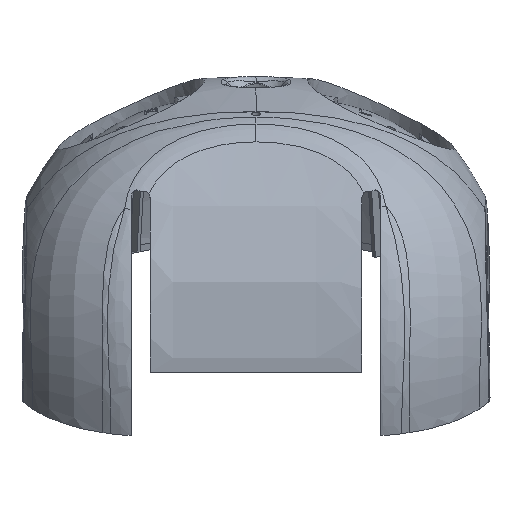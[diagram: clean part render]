
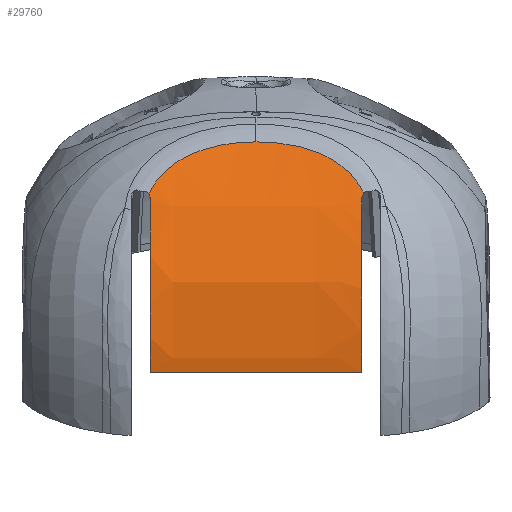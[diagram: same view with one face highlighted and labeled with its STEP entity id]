
A CAD part, front view. The second image highlights one B-rep face of the part: STEP entity #29760.
In plain terms, the highlighted face is a extrusion surface.
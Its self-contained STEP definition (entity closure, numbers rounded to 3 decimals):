
#5467=CARTESIAN_POINT('',(-19.5,-33.513,27.868));
#5468=CARTESIAN_POINT('',(-19.5,-33.712,27.404));
#5469=CARTESIAN_POINT('',(-19.5,-34.865,24.649));
#5470=CARTESIAN_POINT('',(-19.5,-36.629,19.58));
#5471=CARTESIAN_POINT('',(-19.5,-38.18,12.623));
#5472=CARTESIAN_POINT('',(-19.5,-38.807,5.608));
#5473=CARTESIAN_POINT('',(-19.5,-38.505,0.033));
#5474=CARTESIAN_POINT('',(-19.5,-37.989,-3.204));
#5475=CARTESIAN_POINT('',(-19.5,-37.827,-4.067));
#7655=CARTESIAN_POINT('',(19.5,-37.827,-4.067));
#7656=CARTESIAN_POINT('',(19.5,-37.989,-3.204));
#7657=CARTESIAN_POINT('',(19.5,-38.505,0.033));
#7658=CARTESIAN_POINT('',(19.5,-38.807,5.608));
#7659=CARTESIAN_POINT('',(19.5,-38.18,12.623));
#7660=CARTESIAN_POINT('',(19.5,-36.629,19.58));
#7661=CARTESIAN_POINT('',(19.5,-34.865,24.649));
#7662=CARTESIAN_POINT('',(19.5,-33.712,27.404));
#7663=CARTESIAN_POINT('',(19.5,-33.513,27.868));
#11857=CARTESIAN_POINT('',(-19.5,-33.513,27.868));
#11858=CARTESIAN_POINT('',(-19.5,-33.46,27.991));
#11859=CARTESIAN_POINT('',(-19.524,-33.358,
28.227));
#11860=CARTESIAN_POINT('',(-19.614,-33.222,
28.536));
#11861=CARTESIAN_POINT('',(-19.703,-33.144,
28.711));
#11862=CARTESIAN_POINT('',(-19.753,-33.11,
28.789));
#11867=CARTESIAN_POINT('',(-19.753,-33.11,
28.789));
#11868=CARTESIAN_POINT('',(-19.727,-33.085,
28.844));
#11869=CARTESIAN_POINT('',(-19.675,-33.037,
28.951));
#11870=CARTESIAN_POINT('',(-19.598,-32.965,
29.112));
#11871=CARTESIAN_POINT('',(-19.539,-32.922,
29.208));
#11872=CARTESIAN_POINT('',(-19.508,-32.901,
29.253));
#11877=CARTESIAN_POINT('',(-19.508,-32.901,
29.253));
#11878=CARTESIAN_POINT('',(-19.329,-32.74,
29.609));
#11879=CARTESIAN_POINT('',(-18.936,-32.418,
30.306));
#11880=CARTESIAN_POINT('',(-18.235,-31.934,
31.314));
#11881=CARTESIAN_POINT('',(-17.426,-31.458,
32.275));
#11882=CARTESIAN_POINT('',(-16.509,-30.993,
33.184));
#11883=CARTESIAN_POINT('',(-15.489,-30.548,
34.031));
#11884=CARTESIAN_POINT('',(-14.357,-30.123,
34.82));
#11885=CARTESIAN_POINT('',(-13.1,-29.721,
35.552));
#11886=CARTESIAN_POINT('',(-11.708,-29.345,
36.221));
#11887=CARTESIAN_POINT('',(-10.169,-29.001,
36.822));
#11888=CARTESIAN_POINT('',(-8.469,-28.696,
37.347));
#11889=CARTESIAN_POINT('',(-6.598,-28.44,
37.782));
#11890=CARTESIAN_POINT('',(-4.557,-28.244,
38.112));
#11891=CARTESIAN_POINT('',(-2.357,-28.118,
38.322));
#11892=CARTESIAN_POINT('',(-0.802,-28.089,
38.371));
#11893=CARTESIAN_POINT('',(0.,-28.088,
38.373));
#11898=CARTESIAN_POINT('',(0.,-28.088,
38.373));
#11899=CARTESIAN_POINT('',(2.022,-28.087,
38.373));
#11900=CARTESIAN_POINT('',(6.061,-28.267,
38.075));
#11901=CARTESIAN_POINT('',(10.849,-29.035,
36.775));
#11902=CARTESIAN_POINT('',(14.283,-30.007,
35.042));
#11903=CARTESIAN_POINT('',(16.57,-30.9,
33.376));
#11904=CARTESIAN_POINT('',(18.479,-31.93,
31.344));
#11905=CARTESIAN_POINT('',(19.449,-32.673,
29.764));
#11906=CARTESIAN_POINT('',(19.854,-33.048,
28.926));
#11911=CARTESIAN_POINT('',(19.854,-33.048,
28.926));
#11912=CARTESIAN_POINT('',(19.785,-33.084,
28.846));
#11913=CARTESIAN_POINT('',(19.663,-33.169,
28.657));
#11914=CARTESIAN_POINT('',(19.535,-33.326,
28.3));
#11915=CARTESIAN_POINT('',(19.5,-33.449,28.017));
#11916=CARTESIAN_POINT('',(19.5,-33.513,27.868));
#11921=DIRECTION('',(-1.,0.,0.));
#11922=VECTOR('',#11921,39.);
#11923=CARTESIAN_POINT('',(19.5,-37.827,-4.067));
#11924=LINE('',#11923,#11922);
#17335=CARTESIAN_POINT('',(19.5,-37.827,-4.067));
#17336=VERTEX_POINT('',#17335);
#17337=VERTEX_POINT('',#7663);
#17422=CARTESIAN_POINT('',(-19.5,-33.513,27.868));
#17423=VERTEX_POINT('',#17422);
#17424=VERTEX_POINT('',#5475);
#17427=VERTEX_POINT('',#11862);
#17428=VERTEX_POINT('',#11872);
#17429=VERTEX_POINT('',#11893);
#17430=VERTEX_POINT('',#11906);
#29732=CARTESIAN_POINT('',(-40.,-27.858,38.754));
#29733=CARTESIAN_POINT('',(-40.,-27.935,38.627));
#29734=CARTESIAN_POINT('',(-40.,-29.023,36.824));
#29735=CARTESIAN_POINT('',(-40.,-31.313,32.745));
#29736=CARTESIAN_POINT('',(-40.,-34.226,26.485));
#29737=CARTESIAN_POINT('',(-40.,-36.629,19.58));
#29738=CARTESIAN_POINT('',(-40.,-38.18,12.623));
#29739=CARTESIAN_POINT('',(-40.,-38.807,5.608));
#29740=CARTESIAN_POINT('',(-40.,-38.505,0.033));
#29741=CARTESIAN_POINT('',(-40.,-37.966,-3.35));
#29742=CARTESIAN_POINT('',(-40.,-37.771,-4.36));
#29743=CARTESIAN_POINT('',(-40.,-37.742,-4.506));
#29745=DIRECTION('',(1.,0.,0.));
#29746=VECTOR('',#29745,1.);
#29747=SURFACE_OF_LINEAR_EXTRUSION('',#29744,#29746);
#29748=ORIENTED_EDGE('',*,*,#22365,.F.);
#29749=ORIENTED_EDGE('',*,*,#23758,.T.);
#29750=ORIENTED_EDGE('',*,*,#23937,.T.);
#29751=ORIENTED_EDGE('',*,*,#23935,.T.);
#29753=ORIENTED_EDGE('',*,*,#29752,.T.);
#29755=ORIENTED_EDGE('',*,*,#29754,.T.);
#29756=ORIENTED_EDGE('',*,*,#24868,.F.);
#29757=ORIENTED_EDGE('',*,*,#29722,.T.);
#29758=EDGE_LOOP('',(#29748,#29749,#29750,#29751,#29753,#29755,#29756,#29757));
#29759=FACE_OUTER_BOUND('',#29758,.F.);
#5476=B_SPLINE_CURVE_WITH_KNOTS('',3,(#5467,#5468,#5469,#5470,#5471,#5472,#5473,
#5474,#5475),.UNSPECIFIED.,.F.,.F.,(4,1,1,1,1,1,4),(0.,0.044,
0.263,0.482,0.701,0.921,1.),
.UNSPECIFIED.);
#7664=B_SPLINE_CURVE_WITH_KNOTS('',3,(#7655,#7656,#7657,#7658,#7659,#7660,#7661,
#7662,#7663),.UNSPECIFIED.,.F.,.F.,(4,1,1,1,1,1,4),(0.,0.079,
0.299,0.518,0.737,0.956,1.),
.UNSPECIFIED.);
#11863=B_SPLINE_CURVE_WITH_KNOTS('',3,(#11857,#11858,#11859,#11860,#11861,
#11862),.UNSPECIFIED.,.F.,.F.,(4,1,1,4),(0.,0.333,
0.667,1.),.UNSPECIFIED.);
#11873=B_SPLINE_CURVE_WITH_KNOTS('',3,(#11867,#11868,#11869,#11870,#11871,
#11872),.UNSPECIFIED.,.F.,.F.,(4,1,1,4),(0.,0.333,
0.667,1.),.UNSPECIFIED.);
#11894=B_SPLINE_CURVE_WITH_KNOTS('',3,(#11877,#11878,#11879,#11880,#11881,
#11882,#11883,#11884,#11885,#11886,#11887,#11888,#11889,#11890,#11891,#11892,
#11893),.UNSPECIFIED.,.F.,.F.,(4,1,1,1,1,1,1,1,1,1,1,1,1,1,4),(0.,
0.071,0.143,0.214,0.286,
0.357,0.429,0.5,0.571,0.643,
0.714,0.786,0.857,0.929,1.),
.UNSPECIFIED.);
#11907=B_SPLINE_CURVE_WITH_KNOTS('',3,(#11898,#11899,#11900,#11901,#11902,
#11903,#11904,#11905,#11906),.UNSPECIFIED.,.F.,.F.,(4,1,1,1,1,1,4),(0.,0.25,
0.5,0.625,0.75,0.875,1.),.UNSPECIFIED.);
#11917=B_SPLINE_CURVE_WITH_KNOTS('',3,(#11911,#11912,#11913,#11914,#11915,
#11916),.UNSPECIFIED.,.F.,.F.,(4,1,1,4),(0.,0.333,
0.667,1.),.UNSPECIFIED.);
#22365=EDGE_CURVE('',#17423,#17424,#5476,.T.);
#23758=EDGE_CURVE('',#17423,#17427,#11863,.T.);
#23935=EDGE_CURVE('',#17428,#17429,#11894,.T.);
#23937=EDGE_CURVE('',#17427,#17428,#11873,.T.);
#24868=EDGE_CURVE('',#17336,#17337,#7664,.T.);
#29722=EDGE_CURVE('',#17336,#17424,#11924,.T.);
#29744=B_SPLINE_CURVE_WITH_KNOTS('',3,(#29732,#29733,#29734,#29735,#29736,
#29737,#29738,#29739,#29740,#29741,#29742,#29743),.UNSPECIFIED.,.F.,.F.,(4,1,1,
1,1,1,1,1,1,4),(0.,0.009,0.128,0.289,
0.449,0.61,0.771,0.932,
0.99,1.),.UNSPECIFIED.);
#29752=EDGE_CURVE('',#17429,#17430,#11907,.T.);
#29754=EDGE_CURVE('',#17430,#17337,#11917,.T.);
#29760=ADVANCED_FACE('',(#29759),#29747,.T.);
